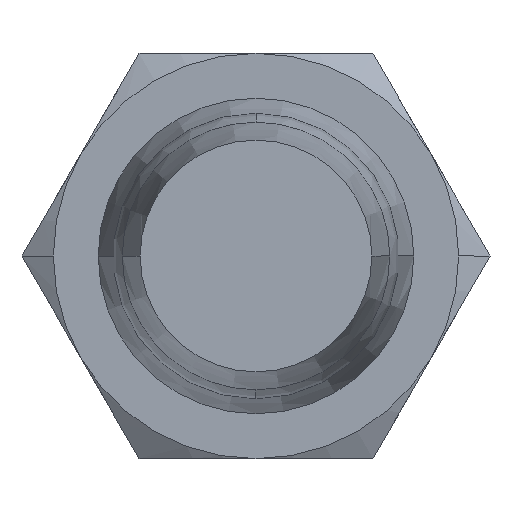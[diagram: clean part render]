
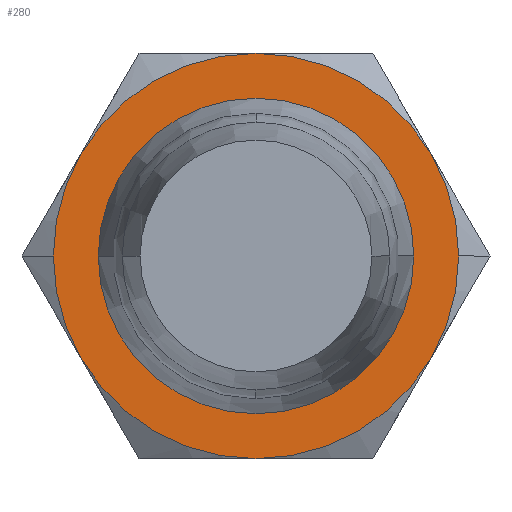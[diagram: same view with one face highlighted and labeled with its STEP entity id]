
A CAD part, left-side view. The second image highlights one B-rep face of the part: STEP entity #280.
In plain terms, the highlighted planar face has unit normal (-1, 0, 0).
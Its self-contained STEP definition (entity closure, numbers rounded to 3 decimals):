
#250 = VERTEX_POINT( '', #622 );
#256 = VERTEX_POINT( '', #629 );
#278 = EDGE_CURVE( '', #368, #318, #654, .T. );
#280 = ADVANCED_FACE( '', ( #656, #657 ), #658, .T. );
#304 = VERTEX_POINT( '', #682 );
#310 = VERTEX_POINT( '', #688 );
#314 = EDGE_CURVE( '', #304, #466, #692, .T. );
#318 = VERTEX_POINT( '', #696 );
#344 = EDGE_CURVE( '', #392, #426, #726, .T. );
#346 = EDGE_CURVE( '', #386, #310, #728, .T. );
#368 = VERTEX_POINT( '', #752 );
#380 = EDGE_CURVE( '', #256, #392, #766, .T. );
#386 = VERTEX_POINT( '', #772 );
#392 = VERTEX_POINT( '', #778 );
#398 = EDGE_CURVE( '', #250, #386, #786, .T. );
#414 = EDGE_CURVE( '', #426, #250, #804, .T. );
#426 = VERTEX_POINT( '', #817 );
#466 = VERTEX_POINT( '', #865 );
#472 = EDGE_CURVE( '', #318, #256, #872, .T. );
#516 = EDGE_CURVE( '', #310, #368, #920, .T. );
#536 = EDGE_CURVE( '', #466, #304, #942, .T. );
#622 = CARTESIAN_POINT( '', ( -4., 0., 3.5 ) );
#629 = CARTESIAN_POINT( '', ( -4., -3.031, -1.75 ) );
#654 = CIRCLE( '', #1124, 3.5 );
#656 = FACE_BOUND( '', #1126, .T. );
#657 = FACE_OUTER_BOUND( '', #1127, .T. );
#658 = PLANE( '', #1128 );
#682 = CARTESIAN_POINT( '', ( -4., 2.725, 0. ) );
#688 = CARTESIAN_POINT( '', ( -4., 3.5, 0. ) );
#692 = CIRCLE( '', #1210, 2.725 );
#696 = CARTESIAN_POINT( '', ( -4., 0., -3.5 ) );
#726 = CIRCLE( '', #1272, 3.5 );
#728 = CIRCLE( '', #1275, 3.5 );
#752 = CARTESIAN_POINT( '', ( -4., 3.031, -1.75 ) );
#766 = CIRCLE( '', #1359, 3.5 );
#772 = CARTESIAN_POINT( '', ( -4., 3.031, 1.75 ) );
#778 = CARTESIAN_POINT( '', ( -4., -3.5, 0. ) );
#786 = CIRCLE( '', #1392, 3.5 );
#804 = CIRCLE( '', #1415, 3.5 );
#817 = CARTESIAN_POINT( '', ( -4., -3.031, 1.75 ) );
#865 = CARTESIAN_POINT( '', ( -4., -2.725, 0. ) );
#872 = CIRCLE( '', #1535, 3.5 );
#920 = CIRCLE( '', #1617, 3.5 );
#942 = CIRCLE( '', #1643, 2.725 );
#1124 = AXIS2_PLACEMENT_3D( '', #1778, #1779, #1780 );
#1126 = EDGE_LOOP( '', ( #1782, #1783 ) );
#1127 = EDGE_LOOP( '', ( #1784, #1785, #1786, #1787, #1788, #1789, #1790, #1791 ) );
#1128 = AXIS2_PLACEMENT_3D( '', #1792, #1793, #1794 );
#1210 = AXIS2_PLACEMENT_3D( '', #1806, #1807, #1808 );
#1272 = AXIS2_PLACEMENT_3D( '', #1852, #1853, #1854 );
#1275 = AXIS2_PLACEMENT_3D( '', #1855, #1856, #1857 );
#1359 = AXIS2_PLACEMENT_3D( '', #1893, #1894, #1895 );
#1392 = AXIS2_PLACEMENT_3D( '', #1914, #1915, #1916 );
#1415 = AXIS2_PLACEMENT_3D( '', #1942, #1943, #1944 );
#1535 = AXIS2_PLACEMENT_3D( '', #2038, #2039, #2040 );
#1617 = AXIS2_PLACEMENT_3D( '', #2101, #2102, #2103 );
#1643 = AXIS2_PLACEMENT_3D( '', #2122, #2123, #2124 );
#1778 = CARTESIAN_POINT( '', ( -4., 0., 0. ) );
#1779 = DIRECTION( '', ( -1., 0., 0. ) );
#1780 = DIRECTION( '', ( 0., 1., 0. ) );
#1782 = ORIENTED_EDGE( '', *, *, #314, .F. );
#1783 = ORIENTED_EDGE( '', *, *, #536, .F. );
#1784 = ORIENTED_EDGE( '', *, *, #346, .T. );
#1785 = ORIENTED_EDGE( '', *, *, #516, .T. );
#1786 = ORIENTED_EDGE( '', *, *, #278, .T. );
#1787 = ORIENTED_EDGE( '', *, *, #472, .T. );
#1788 = ORIENTED_EDGE( '', *, *, #380, .T. );
#1789 = ORIENTED_EDGE( '', *, *, #344, .T. );
#1790 = ORIENTED_EDGE( '', *, *, #414, .T. );
#1791 = ORIENTED_EDGE( '', *, *, #398, .T. );
#1792 = CARTESIAN_POINT( '', ( -4., 3.113, 0. ) );
#1793 = DIRECTION( '', ( -1., 0., 0. ) );
#1794 = DIRECTION( '', ( 0., 1., 0. ) );
#1806 = CARTESIAN_POINT( '', ( -4., 0., 0. ) );
#1807 = DIRECTION( '', ( -1., 0., 0. ) );
#1808 = DIRECTION( '', ( 0., 1., 0. ) );
#1852 = CARTESIAN_POINT( '', ( -4., 0., 0. ) );
#1853 = DIRECTION( '', ( -1., 0., 0. ) );
#1854 = DIRECTION( '', ( 0., 1., 0. ) );
#1855 = CARTESIAN_POINT( '', ( -4., 0., 0. ) );
#1856 = DIRECTION( '', ( -1., 0., 0. ) );
#1857 = DIRECTION( '', ( 0., 1., 0. ) );
#1893 = CARTESIAN_POINT( '', ( -4., 0., 0. ) );
#1894 = DIRECTION( '', ( -1., 0., 0. ) );
#1895 = DIRECTION( '', ( 0., 1., 0. ) );
#1914 = CARTESIAN_POINT( '', ( -4., 0., 0. ) );
#1915 = DIRECTION( '', ( -1., 0., 0. ) );
#1916 = DIRECTION( '', ( 0., 1., 0. ) );
#1942 = CARTESIAN_POINT( '', ( -4., 0., 0. ) );
#1943 = DIRECTION( '', ( -1., 0., 0. ) );
#1944 = DIRECTION( '', ( 0., 1., 0. ) );
#2038 = CARTESIAN_POINT( '', ( -4., 0., 0. ) );
#2039 = DIRECTION( '', ( -1., 0., 0. ) );
#2040 = DIRECTION( '', ( 0., 1., 0. ) );
#2101 = CARTESIAN_POINT( '', ( -4., 0., 0. ) );
#2102 = DIRECTION( '', ( -1., 0., 0. ) );
#2103 = DIRECTION( '', ( 0., 1., 0. ) );
#2122 = CARTESIAN_POINT( '', ( -4., 0., 0. ) );
#2123 = DIRECTION( '', ( -1., 0., 0. ) );
#2124 = DIRECTION( '', ( 0., 1., 0. ) );
